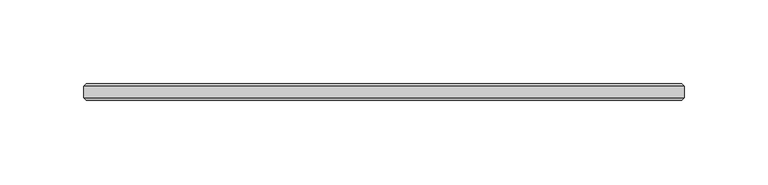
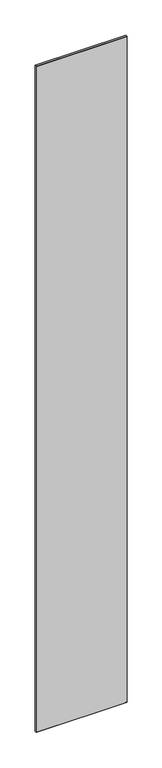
"""IFC4 building model written with IfcOpenShell, lengths in millimetres: plate geometry, 11-AMG-1-Панель одинарный витраж 10-12 : Центр Толщина 10mm."""

from ifc_helpers import new_model, si_unit, origin, place, context, project, spatial, faceted_brep, source, transform, mapped, element, save


def plate_6f179efc(model_context):
    return source(origin(), model_context, "Body", "Brep", [
        faceted_brep([(174.4, -3.4961653, 2777.6), (174.4, 3.4961653, 2777.6), (-184.4, 3.4961653, 2777.6), (-184.4, -3.4961653, 2777.6), (174.4, 3.4961653, 5.0), (174.4, -3.4961653, 5.0), (-184.4, -3.4961653, 5.0), (-184.4, 3.4961653, 5.0), (-182.8961653, 5.0, 2776.0961653), (172.8961653, 5.0, 2776.0961653), (172.8961653, 5.0, 6.4960578), (-182.8961653, 5.0, 6.4960578), (172.8961653, -5.0, 2776.0961653), (-182.8961653, -5.0, 2776.0961653), (-182.8961653, -5.0, 6.5038347), (172.8961653, -5.0, 6.5038347)], [[[0, 1, 2, 3]], [[4, 5, 6, 7]], [[8, 9, 10, 11]], [[3, 2, 7, 6]], [[12, 13, 14, 15]], [[1, 0, 5, 4]], [[1, 4, 10, 9]], [[5, 0, 12, 15]], [[7, 2, 8, 11]], [[3, 6, 14, 13]], [[0, 3, 13, 12]], [[2, 1, 9, 8]], [[6, 5, 15, 14]], [[4, 7, 11, 10]]]),
    ])


if __name__ == "__main__":
    model = new_model("IFC4")
    model_context = context("Model", 3, world=origin())
    ifc_project = project(units=[si_unit("LENGTHUNIT", "METRE", prefix="MILLI")], contexts=[model_context])
    site = spatial("IfcSite", under=ifc_project)
    building = spatial("IfcBuilding", under=site)
    placement = place(None, origin())
    plate_shape = plate_6f179efc(model_context)
    element("IfcPlate", 1, ObjectType="11-AMG-1-Панель одинарный витраж 10-12 : Центр Толщина 10mm", at=placement, inside=building, context=model_context, shape_type="MappedRepresentation", body=[
        mapped(plate_shape, transform((0.0, 0.0, 0.0), x_axis=(1.0, 0.0, 0.0), y_axis=(0.0, 1.0, 0.0), z_axis=(0.0, 0.0, 1.0))),
    ])
    save(model, "model.ifc")
